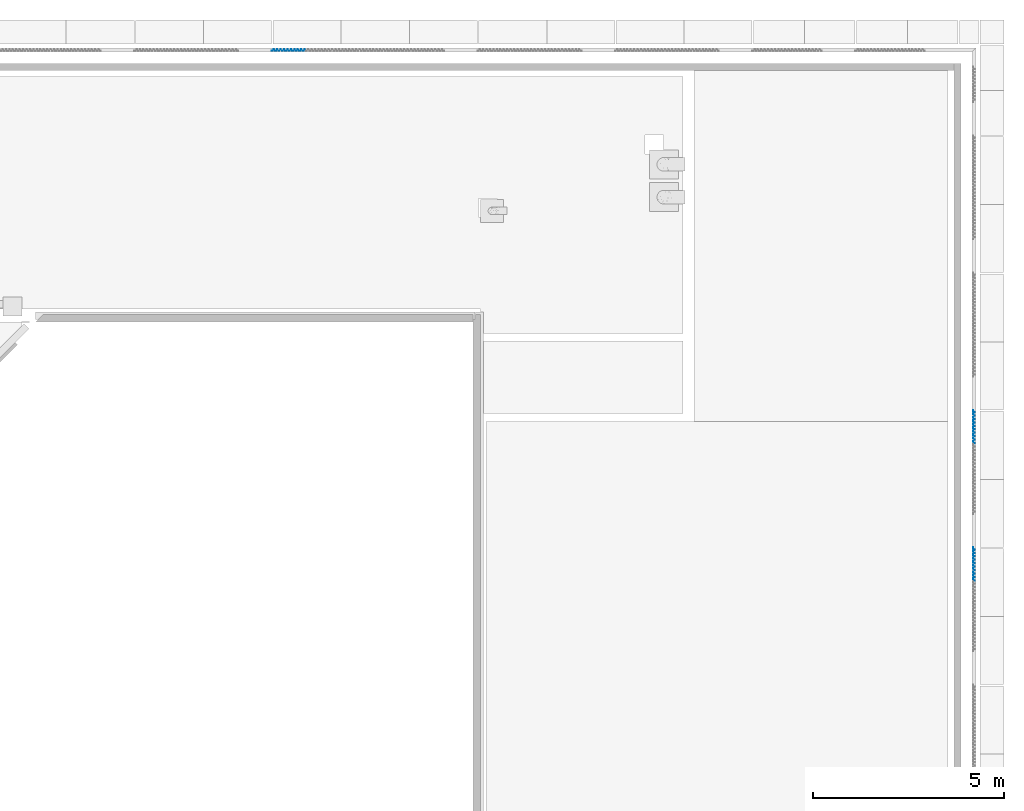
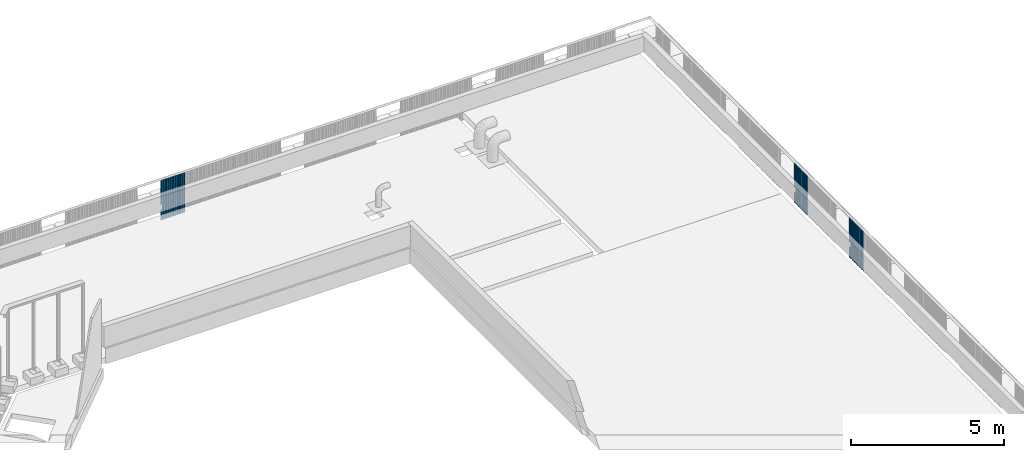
# One storey, part 31 of 37: 3 walls.
"""IFC4X3_ADD2 building model written with IfcOpenShell, lengths in millimetres."""

from ifc_helpers import new_model, si_unit, direction, frame, origin_with_axes, place, context, subcontext, project, spatial, polygons, element, save


model = new_model("IFC4X3_ADD2")

# Units and contexts
model_context = context("Model", 3, precision=1e-05, world=origin_with_axes(), true_north=direction((0.0, 1.0)))
body_context = subcontext(model_context, "Body", "Model", "MODEL_VIEW")
ifc_project = project(units=[si_unit("LENGTHUNIT", "METRE", prefix="MILLI"), si_unit("AREAUNIT", "SQUARE_METRE"), si_unit("VOLUMEUNIT", "CUBIC_METRE"), si_unit("PLANEANGLEUNIT", "RADIAN"), si_unit("TIMEUNIT", "SECOND"), si_unit("MASSUNIT", "GRAM")], contexts=[model_context])

# Site, building, storey
site_placement = place(None, origin_with_axes())
site = spatial("IfcSite", under=ifc_project, at=site_placement, Name="Site", CompositionType="ELEMENT")
building_placement = place(site_placement, origin_with_axes())
building = spatial("IfcBuilding", under=site, at=building_placement, Name="IFC Building Story")
storey_placement = place(building_placement, frame((0.0, 0.0, 14400.0), z_axis=(0.0, 0.0, 1.0), x_axis=(1.0, 0.0, 0.0)))
storey = spatial("IfcBuildingStorey", under=building, at=storey_placement, Name="040", Elevation=14400.0)

# Walls
wall_1_placement = place(storey_placement, frame((0.0, 0.0, -14400.0), z_axis=(0.0, 0.0, 1.0), x_axis=(1.0, 0.0, 0.0)))
element("IfcWall", 1, at=wall_1_placement, inside=storey, Name="BB_07.10_Gevelbekleding_PuntProfiel, 900 mm, console rechts_GMO:900 x 1600 mm", ObjectType="BB_07.10_Gevelbekleding_PuntProfiel, 900 mm, console rechts_GMO:900 x 1600 mm", PredefinedType="NOTDEFINED", context=body_context, shape_type="Tessellation", body=[
    polygons([(435.0000000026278, 32620.00000000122, 14060.0), (433.5857864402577, 32620.00000000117, 14060.0), (448.5857864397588, 32635.0000000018, 14060.0), (415.0000000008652, 32668.58578643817, 14060.0), (415.0000000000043, 32691.41421356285, 14060.0), (416.000000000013, 32691.00000000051, 14060.0), (416.0000000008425, 32669.00000000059, 14060.0), (450.0000000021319, 32635.00000000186, 14060.0), (435.0000000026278, 32620.00000000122, 13860.0), (433.5857864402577, 32620.00000000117, 13860.0), (450.0000000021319, 32635.00000000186, 13860.0), (416.0000000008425, 32669.00000000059, 13860.0), (416.0000000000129, 32691.00000000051, 13860.0), (415.0000000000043, 32691.41421356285, 13860.0), (415.0000000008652, 32668.58578643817, 13860.0), (448.5857864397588, 32635.0000000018, 13860.0), (416.0000000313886, 31859.00000000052, 15040.0), (416.000000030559, 31881.00000000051, 15040.0), (450.000000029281, 31915.00000000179, 15040.0), (416.0000000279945, 31949.00000000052, 15040.0), (416.0000000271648, 31971.00000000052, 15040.0), (450.0000000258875, 32005.0000000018, 15040.0), (416.0000000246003, 32039.00000000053, 15040.0), (416.0000000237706, 32061.00000000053, 15040.0), (450.0000000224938, 32095.00000000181, 15040.0), (416.0000000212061, 32129.00000000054, 15040.0), (416.0000000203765, 32151.00000000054, 15040.0), (450.0000000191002, 32185.00000000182, 15040.0), (416.0000000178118, 32219.00000000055, 15040.0), (416.0000000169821, 32241.00000000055, 15040.0), (450.0000000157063, 32275.00000000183, 15040.0), (416.0000000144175, 32309.00000000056, 15040.0), (416.0000000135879, 32331.00000000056, 15040.0), (450.0000000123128, 32365.00000000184, 15040.0), (416.0000000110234, 32399.00000000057, 15040.0), (416.0000000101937, 32421.00000000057, 15040.0), (450.0000000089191, 32455.00000000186, 15040.0), (416.0000000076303, 32489.00000000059, 15040.0), (416.0000000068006, 32511.00000000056, 15040.0), (450.0000000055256, 32545.00000000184, 15040.0), (416.0000000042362, 32579.00000000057, 15040.0), (416.0000000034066, 32601.00000000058, 15040.0), (450.000000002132, 32635.00000000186, 15040.0), (416.0000000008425, 32669.00000000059, 15040.0), (416.000000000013, 32691.00000000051, 15040.0), (415.0000000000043, 32691.41421356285, 15040.0), (415.0000000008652, 32668.58578643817, 15040.0), (448.5857864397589, 32635.0000000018, 15040.0), (415.0000000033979, 32601.41421356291, 15040.0), (415.0000000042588, 32578.58578643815, 15040.0), (448.5857864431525, 32545.00000000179, 15040.0), (415.0000000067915, 32511.41421356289, 15040.0), (415.0000000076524, 32488.58578643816, 15040.0), (448.5857864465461, 32455.0000000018, 15040.0), (415.0000000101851, 32421.41421356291, 15040.0), (415.000000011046, 32398.58578643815, 15040.0), (448.5857864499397, 32365.00000000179, 15040.0), (415.0000000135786, 32331.41421356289, 15040.0), (415.0000000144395, 32308.58578643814, 15040.0), (448.5857864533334, 32275.00000000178, 15040.0), (415.0000000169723, 32241.41421356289, 15040.0), (415.0000000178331, 32218.58578643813, 15040.0), (448.5857864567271, 32185.00000000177, 15040.0), (415.000000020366, 32151.41421356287, 15040.0), (415.0000000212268, 32128.58578643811, 15040.0), (448.5857864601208, 32095.00000000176, 15040.0), (415.0000000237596, 32061.41421356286, 15040.0), (415.0000000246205, 32038.58578643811, 15040.0), (448.5857864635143, 32005.00000000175, 15040.0), (415.0000000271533, 31971.41421356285, 15040.0), (415.000000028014, 31948.5857864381, 15040.0), (448.585786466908, 31915.00000000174, 15040.0), (415.0000000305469, 31881.41421356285, 15040.0), (415.0000000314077, 31858.5857864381, 15040.0), (448.5857864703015, 31825.00000000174, 15040.0), (415.0000000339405, 31791.41421356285, 15040.0), (415.0000000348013, 31768.5857864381, 15040.0), (416.0000000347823, 31769.00000000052, 15040.0), (416.0000000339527, 31791.00000000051, 15040.0), (450.0000000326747, 31825.00000000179, 15040.0), (416.0000000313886, 31859.00000000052, 13440.0), (450.0000000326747, 31825.00000000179, 13440.0), (416.0000000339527, 31791.00000000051, 13440.0), (416.0000000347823, 31769.00000000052, 13440.0), (415.0000000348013, 31768.5857864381, 13440.0), (415.0000000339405, 31791.41421356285, 13440.0), (448.5857864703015, 31825.00000000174, 13440.0), (415.0000000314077, 31858.5857864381, 13440.0), (415.0000000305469, 31881.41421356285, 13440.0), (448.585786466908, 31915.00000000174, 13440.0), (415.000000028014, 31948.5857864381, 13440.0), (415.0000000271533, 31971.41421356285, 13440.0), (448.5857864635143, 32005.00000000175, 13440.0), (415.0000000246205, 32038.58578643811, 13440.0), (415.0000000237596, 32061.41421356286, 13440.0), (448.5857864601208, 32095.00000000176, 13440.0), (415.0000000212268, 32128.58578643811, 13440.0), (415.000000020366, 32151.41421356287, 13440.0), (448.5857864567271, 32185.00000000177, 13440.0), (415.0000000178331, 32218.58578643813, 13440.0), (415.0000000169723, 32241.41421356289, 13440.0), (448.5857864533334, 32275.00000000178, 13440.0), (415.0000000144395, 32308.58578643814, 13440.0), (415.0000000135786, 32331.41421356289, 13440.0), (448.5857864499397, 32365.00000000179, 13440.0), (415.000000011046, 32398.58578643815, 13440.0), (415.0000000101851, 32421.41421356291, 13440.0), (448.5857864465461, 32455.0000000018, 13440.0), (415.0000000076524, 32488.58578643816, 13440.0), (415.0000000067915, 32511.41421356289, 13440.0), (448.5857864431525, 32545.00000000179, 13440.0), (415.0000000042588, 32578.58578643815, 13440.0), (415.0000000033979, 32601.41421356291, 13440.0), (448.5857864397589, 32635.0000000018, 13440.0), (415.0000000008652, 32668.58578643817, 13440.0), (415.0000000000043, 32691.41421356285, 13440.0), (416.000000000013, 32691.00000000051, 13440.0), (416.0000000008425, 32669.00000000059, 13440.0), (450.000000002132, 32635.00000000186, 13440.0), (416.0000000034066, 32601.00000000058, 13440.0), (416.0000000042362, 32579.00000000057, 13440.0), (450.0000000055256, 32545.00000000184, 13440.0), (416.0000000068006, 32511.00000000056, 13440.0), (416.0000000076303, 32489.00000000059, 13440.0), (450.0000000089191, 32455.00000000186, 13440.0), (416.0000000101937, 32421.00000000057, 13440.0), (416.0000000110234, 32399.00000000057, 13440.0), (450.0000000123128, 32365.00000000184, 13440.0), (416.0000000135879, 32331.00000000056, 13440.0), (416.0000000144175, 32309.00000000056, 13440.0), (450.0000000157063, 32275.00000000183, 13440.0), (416.0000000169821, 32241.00000000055, 13440.0), (416.0000000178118, 32219.00000000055, 13440.0), (450.0000000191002, 32185.00000000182, 13440.0), (416.0000000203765, 32151.00000000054, 13440.0), (416.0000000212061, 32129.00000000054, 13440.0), (450.0000000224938, 32095.00000000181, 13440.0), (416.0000000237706, 32061.00000000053, 13440.0), (416.0000000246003, 32039.00000000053, 13440.0), (450.0000000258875, 32005.0000000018, 13440.0), (416.0000000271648, 31971.00000000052, 13440.0), (416.0000000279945, 31949.00000000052, 13440.0), (450.000000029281, 31915.00000000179, 13440.0), (416.000000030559, 31881.00000000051, 13440.0)], [[[7, 8, 3]], [[7, 3, 4]], [[4, 5, 6]], [[4, 6, 7]], [[8, 1, 2]], [[8, 2, 3]], [[2, 1, 9, 10]], [[12, 13, 14]], [[12, 14, 15]], [[16, 10, 9]], [[16, 9, 11]], [[11, 12, 15]], [[11, 15, 16]], [[44, 45, 46]], [[44, 46, 47]], [[48, 49, 42]], [[48, 42, 43]], [[43, 44, 47]], [[43, 47, 48]], [[49, 50, 41]], [[49, 41, 42]], [[51, 52, 39]], [[51, 39, 40]], [[40, 41, 50]], [[40, 50, 51]], [[52, 53, 38]], [[52, 38, 39]], [[54, 55, 36]], [[54, 36, 37]], [[37, 38, 53]], [[37, 53, 54]], [[55, 56, 35]], [[55, 35, 36]], [[57, 58, 33]], [[57, 33, 34]], [[34, 35, 56]], [[34, 56, 57]], [[58, 59, 32]], [[58, 32, 33]], [[60, 61, 30]], [[60, 30, 31]], [[31, 32, 59]], [[31, 59, 60]], [[61, 62, 29]], [[61, 29, 30]], [[63, 64, 27]], [[63, 27, 28]], [[28, 29, 62]], [[28, 62, 63]], [[64, 65, 26]], [[64, 26, 27]], [[66, 67, 24]], [[66, 24, 25]], [[25, 26, 65]], [[25, 65, 66]], [[67, 68, 23]], [[67, 23, 24]], [[69, 70, 21]], [[69, 21, 22]], [[22, 23, 68]], [[22, 68, 69]], [[70, 71, 20]], [[70, 20, 21]], [[72, 73, 18]], [[72, 18, 19]], [[19, 20, 71]], [[19, 71, 72]], [[73, 74, 17]], [[73, 17, 18]], [[79, 80, 75]], [[79, 75, 76]], [[76, 77, 78]], [[76, 78, 79]], [[80, 17, 74]], [[80, 74, 75]], [[83, 84, 85]], [[83, 85, 86]], [[87, 88, 81]], [[87, 81, 82]], [[82, 83, 86]], [[82, 86, 87]], [[118, 119, 114]], [[118, 114, 115]], [[115, 116, 117]], [[115, 117, 118]], [[121, 122, 111]], [[121, 111, 112]], [[112, 113, 120]], [[112, 120, 121]], [[113, 114, 119]], [[113, 119, 120]], [[124, 125, 108]], [[124, 108, 109]], [[109, 110, 123]], [[109, 123, 124]], [[110, 111, 122]], [[110, 122, 123]], [[127, 128, 105]], [[127, 105, 106]], [[106, 107, 126]], [[106, 126, 127]], [[107, 108, 125]], [[107, 125, 126]], [[130, 131, 102]], [[130, 102, 103]], [[103, 104, 129]], [[103, 129, 130]], [[104, 105, 128]], [[104, 128, 129]], [[133, 134, 99]], [[133, 99, 100]], [[100, 101, 132]], [[100, 132, 133]], [[101, 102, 131]], [[101, 131, 132]], [[136, 137, 96]], [[136, 96, 97]], [[97, 98, 135]], [[97, 135, 136]], [[98, 99, 134]], [[98, 134, 135]], [[139, 140, 93]], [[139, 93, 94]], [[94, 95, 138]], [[94, 138, 139]], [[95, 96, 137]], [[95, 137, 138]], [[142, 143, 90]], [[142, 90, 91]], [[91, 92, 141]], [[91, 141, 142]], [[92, 93, 140]], [[92, 140, 141]], [[144, 81, 88]], [[144, 88, 89]], [[89, 90, 143]], [[89, 143, 144]], [[18, 17, 81, 144]], [[19, 18, 144, 143]], [[20, 19, 143, 142]], [[21, 20, 142, 141]], [[22, 21, 141, 140]], [[23, 22, 140, 139]], [[24, 23, 139, 138]], [[25, 24, 138, 137]], [[26, 25, 137, 136]], [[27, 26, 136, 135]], [[28, 27, 135, 134]], [[29, 28, 134, 133]], [[30, 29, 133, 132]], [[31, 30, 132, 131]], [[32, 31, 131, 130]], [[33, 32, 130, 129]], [[34, 33, 129, 128]], [[35, 34, 128, 127]], [[36, 35, 127, 126]], [[37, 36, 126, 125]], [[38, 37, 125, 124]], [[54, 53, 109, 108]], [[55, 54, 108, 107]], [[56, 55, 107, 106]], [[57, 56, 106, 105]], [[58, 57, 105, 104]], [[59, 58, 104, 103]], [[60, 59, 103, 102]], [[61, 60, 102, 101]], [[62, 61, 101, 100]], [[63, 62, 100, 99]], [[64, 63, 99, 98]], [[65, 64, 98, 97]], [[66, 65, 97, 96]], [[67, 66, 96, 95]], [[68, 67, 95, 94]], [[69, 68, 94, 93]], [[70, 69, 93, 92]], [[71, 70, 92, 91]], [[72, 71, 91, 90]], [[73, 72, 90, 89]], [[74, 73, 89, 88]], [[80, 79, 83, 82]], [[17, 80, 82, 81]], [[39, 38, 124, 123]], [[40, 39, 123, 122]], [[41, 40, 122, 121]], [[42, 41, 121, 120]], [[1, 8, 43]], [[1, 43, 42]], [[42, 9, 1]], [[42, 120, 9]], [[120, 119, 11]], [[120, 11, 9]], [[44, 43, 8, 7]], [[45, 44, 7, 6]], [[47, 46, 5, 4]], [[48, 47, 4, 3]], [[10, 16, 114]], [[10, 114, 113]], [[113, 2, 10]], [[2, 113, 49]], [[49, 48, 2]], [[48, 3, 2]], [[50, 49, 113, 112]], [[51, 50, 112, 111]], [[52, 51, 111, 110]], [[53, 52, 110, 109]], [[75, 74, 88, 87]], [[76, 75, 87, 86]], [[46, 45, 6, 5]], [[77, 76, 86, 85]], [[78, 77, 85, 84]], [[79, 78, 84, 83]], [[117, 116, 14, 13]], [[115, 114, 16, 15]], [[116, 115, 15, 14]], [[118, 117, 13, 12]], [[119, 118, 12, 11]]]),
])
wall_2_placement = place(storey_placement, frame((0.0, 0.0, -14400.0), z_axis=(0.0, 0.0, 1.0), x_axis=(1.0, 0.0, 0.0)))
element("IfcWall", 2, at=wall_2_placement, inside=storey, Name="BB_07.10_Gevelbekleding_PuntProfiel, 900 mm, console rechts_GMO:900 x 1600 mm", ObjectType="BB_07.10_Gevelbekleding_PuntProfiel, 900 mm, console rechts_GMO:900 x 1600 mm", PredefinedType="NOTDEFINED", context=body_context, shape_type="Tessellation", body=[
    polygons([(435.0000000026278, 36220.00000000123, 14060.0), (433.5857864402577, 36220.00000000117, 14060.0), (448.5857864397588, 36235.0000000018, 14060.0), (415.0000000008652, 36268.58578643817, 14060.0), (415.0000000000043, 36291.41421356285, 14060.0), (416.000000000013, 36291.00000000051, 14060.0), (416.0000000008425, 36269.00000000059, 14060.0), (450.0000000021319, 36235.00000000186, 14060.0), (435.0000000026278, 36220.00000000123, 13860.0), (433.5857864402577, 36220.00000000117, 13860.0), (450.0000000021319, 36235.00000000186, 13860.0), (416.0000000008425, 36269.00000000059, 13860.0), (416.0000000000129, 36291.00000000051, 13860.0), (415.0000000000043, 36291.41421356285, 13860.0), (415.0000000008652, 36268.58578643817, 13860.0), (448.5857864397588, 36235.0000000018, 13860.0), (416.0000000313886, 35459.00000000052, 15040.0), (416.000000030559, 35481.00000000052, 15040.0), (450.000000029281, 35515.0000000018, 15040.0), (416.0000000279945, 35549.00000000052, 15040.0), (416.0000000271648, 35571.00000000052, 15040.0), (450.0000000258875, 35605.0000000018, 15040.0), (416.0000000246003, 35639.00000000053, 15040.0), (416.0000000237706, 35661.00000000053, 15040.0), (450.0000000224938, 35695.00000000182, 15040.0), (416.0000000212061, 35729.00000000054, 15040.0), (416.0000000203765, 35751.00000000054, 15040.0), (450.0000000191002, 35785.00000000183, 15040.0), (416.0000000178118, 35819.00000000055, 15040.0), (416.0000000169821, 35841.00000000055, 15040.0), (450.0000000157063, 35875.00000000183, 15040.0), (416.0000000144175, 35909.00000000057, 15040.0), (416.0000000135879, 35931.00000000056, 15040.0), (450.0000000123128, 35965.00000000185, 15040.0), (416.0000000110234, 35999.00000000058, 15040.0), (416.0000000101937, 36021.00000000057, 15040.0), (450.0000000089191, 36055.00000000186, 15040.0), (416.0000000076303, 36089.00000000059, 15040.0), (416.0000000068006, 36111.00000000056, 15040.0), (450.0000000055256, 36145.00000000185, 15040.0), (416.0000000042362, 36179.00000000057, 15040.0), (416.0000000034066, 36201.00000000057, 15040.0), (450.000000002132, 36235.00000000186, 15040.0), (416.0000000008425, 36269.00000000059, 15040.0), (416.000000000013, 36291.00000000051, 15040.0), (415.0000000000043, 36291.41421356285, 15040.0), (415.0000000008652, 36268.58578643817, 15040.0), (448.5857864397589, 36235.0000000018, 15040.0), (415.0000000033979, 36201.41421356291, 15040.0), (415.0000000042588, 36178.58578643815, 15040.0), (448.5857864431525, 36145.00000000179, 15040.0), (415.0000000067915, 36111.4142135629, 15040.0), (415.0000000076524, 36088.58578643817, 15040.0), (448.5857864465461, 36055.0000000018, 15040.0), (415.0000000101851, 36021.41421356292, 15040.0), (415.000000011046, 35998.58578643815, 15040.0), (448.5857864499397, 35965.00000000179, 15040.0), (415.0000000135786, 35931.4142135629, 15040.0), (415.0000000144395, 35908.58578643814, 15040.0), (448.5857864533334, 35875.00000000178, 15040.0), (415.0000000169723, 35841.41421356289, 15040.0), (415.0000000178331, 35818.58578643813, 15040.0), (448.5857864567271, 35785.00000000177, 15040.0), (415.000000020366, 35751.41421356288, 15040.0), (415.0000000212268, 35728.58578643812, 15040.0), (448.5857864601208, 35695.00000000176, 15040.0), (415.0000000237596, 35661.41421356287, 15040.0), (415.0000000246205, 35638.58578643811, 15040.0), (448.5857864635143, 35605.00000000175, 15040.0), (415.0000000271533, 35571.41421356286, 15040.0), (415.000000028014, 35548.5857864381, 15040.0), (448.585786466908, 35515.00000000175, 15040.0), (415.0000000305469, 35481.41421356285, 15040.0), (415.0000000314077, 35458.5857864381, 15040.0), (448.5857864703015, 35425.00000000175, 15040.0), (415.0000000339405, 35391.41421356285, 15040.0), (415.0000000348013, 35368.5857864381, 15040.0), (416.0000000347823, 35369.00000000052, 15040.0), (416.0000000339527, 35391.00000000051, 15040.0), (450.0000000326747, 35425.0000000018, 15040.0), (416.0000000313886, 35459.00000000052, 13440.0), (450.0000000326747, 35425.0000000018, 13440.0), (416.0000000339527, 35391.00000000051, 13440.0), (416.0000000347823, 35369.00000000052, 13440.0), (415.0000000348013, 35368.5857864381, 13440.0), (415.0000000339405, 35391.41421356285, 13440.0), (448.5857864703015, 35425.00000000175, 13440.0), (415.0000000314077, 35458.5857864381, 13440.0), (415.0000000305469, 35481.41421356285, 13440.0), (448.585786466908, 35515.00000000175, 13440.0), (415.000000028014, 35548.5857864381, 13440.0), (415.0000000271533, 35571.41421356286, 13440.0), (448.5857864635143, 35605.00000000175, 13440.0), (415.0000000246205, 35638.58578643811, 13440.0), (415.0000000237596, 35661.41421356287, 13440.0), (448.5857864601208, 35695.00000000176, 13440.0), (415.0000000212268, 35728.58578643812, 13440.0), (415.000000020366, 35751.41421356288, 13440.0), (448.5857864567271, 35785.00000000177, 13440.0), (415.0000000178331, 35818.58578643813, 13440.0), (415.0000000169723, 35841.41421356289, 13440.0), (448.5857864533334, 35875.00000000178, 13440.0), (415.0000000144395, 35908.58578643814, 13440.0), (415.0000000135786, 35931.4142135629, 13440.0), (448.5857864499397, 35965.00000000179, 13440.0), (415.000000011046, 35998.58578643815, 13440.0), (415.0000000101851, 36021.41421356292, 13440.0), (448.5857864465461, 36055.0000000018, 13440.0), (415.0000000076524, 36088.58578643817, 13440.0), (415.0000000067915, 36111.4142135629, 13440.0), (448.5857864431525, 36145.00000000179, 13440.0), (415.0000000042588, 36178.58578643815, 13440.0), (415.0000000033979, 36201.41421356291, 13440.0), (448.5857864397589, 36235.0000000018, 13440.0), (415.0000000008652, 36268.58578643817, 13440.0), (415.0000000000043, 36291.41421356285, 13440.0), (416.000000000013, 36291.00000000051, 13440.0), (416.0000000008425, 36269.00000000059, 13440.0), (450.000000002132, 36235.00000000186, 13440.0), (416.0000000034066, 36201.00000000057, 13440.0), (416.0000000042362, 36179.00000000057, 13440.0), (450.0000000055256, 36145.00000000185, 13440.0), (416.0000000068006, 36111.00000000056, 13440.0), (416.0000000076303, 36089.00000000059, 13440.0), (450.0000000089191, 36055.00000000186, 13440.0), (416.0000000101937, 36021.00000000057, 13440.0), (416.0000000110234, 35999.00000000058, 13440.0), (450.0000000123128, 35965.00000000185, 13440.0), (416.0000000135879, 35931.00000000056, 13440.0), (416.0000000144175, 35909.00000000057, 13440.0), (450.0000000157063, 35875.00000000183, 13440.0), (416.0000000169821, 35841.00000000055, 13440.0), (416.0000000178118, 35819.00000000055, 13440.0), (450.0000000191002, 35785.00000000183, 13440.0), (416.0000000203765, 35751.00000000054, 13440.0), (416.0000000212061, 35729.00000000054, 13440.0), (450.0000000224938, 35695.00000000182, 13440.0), (416.0000000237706, 35661.00000000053, 13440.0), (416.0000000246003, 35639.00000000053, 13440.0), (450.0000000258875, 35605.0000000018, 13440.0), (416.0000000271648, 35571.00000000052, 13440.0), (416.0000000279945, 35549.00000000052, 13440.0), (450.000000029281, 35515.0000000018, 13440.0), (416.000000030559, 35481.00000000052, 13440.0)], [[[7, 8, 3]], [[7, 3, 4]], [[4, 5, 6]], [[4, 6, 7]], [[8, 1, 2]], [[8, 2, 3]], [[2, 1, 9, 10]], [[12, 13, 14]], [[12, 14, 15]], [[16, 10, 9]], [[16, 9, 11]], [[11, 12, 15]], [[11, 15, 16]], [[44, 45, 46]], [[44, 46, 47]], [[48, 49, 42]], [[48, 42, 43]], [[43, 44, 47]], [[43, 47, 48]], [[49, 50, 41]], [[49, 41, 42]], [[51, 52, 39]], [[51, 39, 40]], [[40, 41, 50]], [[40, 50, 51]], [[52, 53, 38]], [[52, 38, 39]], [[54, 55, 36]], [[54, 36, 37]], [[37, 38, 53]], [[37, 53, 54]], [[55, 56, 35]], [[55, 35, 36]], [[57, 58, 33]], [[57, 33, 34]], [[34, 35, 56]], [[34, 56, 57]], [[58, 59, 32]], [[58, 32, 33]], [[60, 61, 30]], [[60, 30, 31]], [[31, 32, 59]], [[31, 59, 60]], [[61, 62, 29]], [[61, 29, 30]], [[63, 64, 27]], [[63, 27, 28]], [[28, 29, 62]], [[28, 62, 63]], [[64, 65, 26]], [[64, 26, 27]], [[66, 67, 24]], [[66, 24, 25]], [[25, 26, 65]], [[25, 65, 66]], [[67, 68, 23]], [[67, 23, 24]], [[69, 70, 21]], [[69, 21, 22]], [[22, 23, 68]], [[22, 68, 69]], [[70, 71, 20]], [[70, 20, 21]], [[72, 73, 18]], [[72, 18, 19]], [[19, 20, 71]], [[19, 71, 72]], [[73, 74, 17]], [[73, 17, 18]], [[79, 80, 75]], [[79, 75, 76]], [[76, 77, 78]], [[76, 78, 79]], [[80, 17, 74]], [[80, 74, 75]], [[83, 84, 85]], [[83, 85, 86]], [[87, 88, 81]], [[87, 81, 82]], [[82, 83, 86]], [[82, 86, 87]], [[118, 119, 114]], [[118, 114, 115]], [[115, 116, 117]], [[115, 117, 118]], [[121, 122, 111]], [[121, 111, 112]], [[112, 113, 120]], [[112, 120, 121]], [[113, 114, 119]], [[113, 119, 120]], [[124, 125, 108]], [[124, 108, 109]], [[109, 110, 123]], [[109, 123, 124]], [[110, 111, 122]], [[110, 122, 123]], [[127, 128, 105]], [[127, 105, 106]], [[106, 107, 126]], [[106, 126, 127]], [[107, 108, 125]], [[107, 125, 126]], [[130, 131, 102]], [[130, 102, 103]], [[103, 104, 129]], [[103, 129, 130]], [[104, 105, 128]], [[104, 128, 129]], [[133, 134, 99]], [[133, 99, 100]], [[100, 101, 132]], [[100, 132, 133]], [[101, 102, 131]], [[101, 131, 132]], [[136, 137, 96]], [[136, 96, 97]], [[97, 98, 135]], [[97, 135, 136]], [[98, 99, 134]], [[98, 134, 135]], [[139, 140, 93]], [[139, 93, 94]], [[94, 95, 138]], [[94, 138, 139]], [[95, 96, 137]], [[95, 137, 138]], [[142, 143, 90]], [[142, 90, 91]], [[91, 92, 141]], [[91, 141, 142]], [[92, 93, 140]], [[92, 140, 141]], [[144, 81, 88]], [[144, 88, 89]], [[89, 90, 143]], [[89, 143, 144]], [[18, 17, 81, 144]], [[19, 18, 144, 143]], [[20, 19, 143, 142]], [[21, 20, 142, 141]], [[22, 21, 141, 140]], [[23, 22, 140, 139]], [[24, 23, 139, 138]], [[25, 24, 138, 137]], [[26, 25, 137, 136]], [[27, 26, 136, 135]], [[28, 27, 135, 134]], [[29, 28, 134, 133]], [[30, 29, 133, 132]], [[31, 30, 132, 131]], [[32, 31, 131, 130]], [[33, 32, 130, 129]], [[34, 33, 129, 128]], [[35, 34, 128, 127]], [[36, 35, 127, 126]], [[37, 36, 126, 125]], [[38, 37, 125, 124]], [[54, 53, 109, 108]], [[55, 54, 108, 107]], [[56, 55, 107, 106]], [[57, 56, 106, 105]], [[58, 57, 105, 104]], [[59, 58, 104, 103]], [[60, 59, 103, 102]], [[61, 60, 102, 101]], [[62, 61, 101, 100]], [[63, 62, 100, 99]], [[64, 63, 99, 98]], [[65, 64, 98, 97]], [[66, 65, 97, 96]], [[67, 66, 96, 95]], [[68, 67, 95, 94]], [[69, 68, 94, 93]], [[70, 69, 93, 92]], [[71, 70, 92, 91]], [[72, 71, 91, 90]], [[73, 72, 90, 89]], [[74, 73, 89, 88]], [[80, 79, 83, 82]], [[17, 80, 82, 81]], [[39, 38, 124, 123]], [[40, 39, 123, 122]], [[41, 40, 122, 121]], [[42, 41, 121, 120]], [[1, 8, 43]], [[1, 43, 42]], [[42, 9, 1]], [[42, 120, 9]], [[120, 119, 11]], [[120, 11, 9]], [[44, 43, 8, 7]], [[45, 44, 7, 6]], [[47, 46, 5, 4]], [[48, 47, 4, 3]], [[10, 16, 114]], [[10, 114, 113]], [[113, 2, 10]], [[2, 113, 49]], [[49, 48, 2]], [[48, 3, 2]], [[50, 49, 113, 112]], [[51, 50, 112, 111]], [[52, 51, 111, 110]], [[53, 52, 110, 109]], [[75, 74, 88, 87]], [[76, 75, 87, 86]], [[46, 45, 6, 5]], [[77, 76, 86, 85]], [[78, 77, 85, 84]], [[79, 78, 84, 83]], [[117, 116, 14, 13]], [[115, 114, 16, 15]], [[116, 115, 15, 14]], [[118, 117, 13, 12]], [[119, 118, 12, 11]]]),
])
wall_3_placement = place(storey_placement, frame((0.0, 0.0, -14400.0), z_axis=(0.0, 0.0, 1.0), x_axis=(1.0, 0.0, 0.0)))
element("IfcWall", 3, at=wall_3_placement, inside=storey, Name="BB_07.10_Gevelbekleding_PuntProfiel, 900 mm, console rechts_GMO:900 x 1600 mm", ObjectType="BB_07.10_Gevelbekleding_PuntProfiel, 900 mm, console rechts_GMO:900 x 1600 mm", PredefinedType="NOTDEFINED", context=body_context, shape_type="Tessellation", body=[
    polygons([(-17904.99999999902, 45734.99999999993, 14060.0), (-17904.99999999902, 45733.58578643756, 14060.0), (-17919.99999999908, 45748.58578643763, 14060.0), (-17953.58578643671, 45715.0, 14060.0), (-17976.4142135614, 45715.0, 14060.0), (-17975.99999999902, 45716.0, 14060.0), (-17953.9999999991, 45716.0, 14060.0), (-17919.99999999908, 45750.0, 14060.0), (-17904.99999999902, 45734.99999999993, 13860.0), (-17904.99999999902, 45733.58578643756, 13860.0), (-17919.99999999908, 45750.0, 13860.0), (-17953.9999999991, 45716.0, 13860.0), (-17975.99999999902, 45716.0, 13860.0), (-17976.4142135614, 45715.0, 13860.0), (-17953.58578643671, 45715.0, 13860.0), (-17919.99999999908, 45748.58578643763, 13860.0), (-17143.99999999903, 45716.0, 15040.0), (-17165.99999999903, 45716.0, 15040.0), (-17199.99999999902, 45750.0, 15040.0), (-17233.99999999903, 45716.0, 15040.0), (-17255.99999999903, 45716.0, 15040.0), (-17289.99999999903, 45750.0, 15040.0), (-17323.99999999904, 45716.0, 15040.0), (-17345.99999999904, 45716.0, 15040.0), (-17379.99999999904, 45750.00000000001, 15040.0), (-17413.99999999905, 45716.0, 15040.0), (-17435.99999999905, 45716.0, 15040.0), (-17469.99999999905, 45750.00000000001, 15040.0), (-17503.99999999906, 45716.0, 15040.0), (-17525.99999999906, 45716.0, 15040.0), (-17559.99999999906, 45750.00000000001, 15040.0), (-17593.99999999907, 45716.0, 15040.0), (-17615.99999999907, 45716.0, 15040.0), (-17649.99999999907, 45750.00000000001, 15040.0), (-17683.99999999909, 45716.0, 15040.0), (-17705.99999999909, 45716.0, 15040.0), (-17739.99999999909, 45750.00000000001, 15040.0), (-17773.9999999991, 45716.0, 15040.0), (-17795.99999999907, 45716.0, 15040.0), (-17829.99999999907, 45750.00000000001, 15040.0), (-17863.99999999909, 45716.0, 15040.0), (-17885.99999999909, 45716.0, 15040.0), (-17919.99999999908, 45750.00000000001, 15040.0), (-17953.9999999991, 45716.0, 15040.0), (-17975.99999999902, 45716.0, 15040.0), (-17976.4142135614, 45715.0, 15040.0), (-17953.58578643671, 45715.0, 15040.0), (-17919.99999999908, 45748.58578643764, 15040.0), (-17886.41421356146, 45715.0, 15040.0), (-17863.5857864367, 45715.0, 15040.0), (-17829.99999999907, 45748.58578643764, 15040.0), (-17796.41421356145, 45715.0, 15040.0), (-17773.58578643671, 45715.0, 15040.0), (-17739.99999999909, 45748.58578643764, 15040.0), (-17706.41421356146, 45715.0, 15040.0), (-17683.5857864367, 45715.0, 15040.0), (-17649.99999999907, 45748.58578643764, 15040.0), (-17616.41421356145, 45715.0, 15040.0), (-17593.58578643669, 45715.0, 15040.0), (-17559.99999999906, 45748.58578643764, 15040.0), (-17526.41421356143, 45715.0, 15040.0), (-17503.58578643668, 45715.0, 15040.0), (-17469.99999999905, 45748.58578643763, 15040.0), (-17436.41421356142, 45715.0, 15040.0), (-17413.58578643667, 45715.0, 15040.0), (-17379.99999999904, 45748.58578643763, 15040.0), (-17346.41421356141, 45715.0, 15040.0), (-17323.58578643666, 45715.0, 15040.0), (-17289.99999999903, 45748.58578643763, 15040.0), (-17256.41421356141, 45715.0, 15040.0), (-17233.58578643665, 45715.0, 15040.0), (-17199.99999999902, 45748.58578643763, 15040.0), (-17166.4142135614, 45715.0, 15040.0), (-17143.58578643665, 45715.0, 15040.0), (-17109.99999999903, 45748.58578643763, 15040.0), (-17076.4142135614, 45715.0, 15040.0), (-17053.58578643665, 45715.0, 15040.0), (-17053.99999999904, 45716.0, 15040.0), (-17075.99999999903, 45716.0, 15040.0), (-17109.99999999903, 45750.0, 15040.0), (-17143.99999999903, 45716.0, 13440.0), (-17109.99999999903, 45750.0, 13440.0), (-17075.99999999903, 45716.0, 13440.0), (-17053.99999999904, 45716.0, 13440.0), (-17053.58578643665, 45715.0, 13440.0), (-17076.4142135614, 45715.0, 13440.0), (-17109.99999999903, 45748.58578643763, 13440.0), (-17143.58578643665, 45715.0, 13440.0), (-17166.4142135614, 45715.0, 13440.0), (-17199.99999999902, 45748.58578643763, 13440.0), (-17233.58578643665, 45715.0, 13440.0), (-17256.41421356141, 45715.0, 13440.0), (-17289.99999999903, 45748.58578643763, 13440.0), (-17323.58578643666, 45715.0, 13440.0), (-17346.41421356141, 45715.0, 13440.0), (-17379.99999999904, 45748.58578643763, 13440.0), (-17413.58578643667, 45715.0, 13440.0), (-17436.41421356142, 45715.0, 13440.0), (-17469.99999999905, 45748.58578643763, 13440.0), (-17503.58578643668, 45715.0, 13440.0), (-17526.41421356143, 45715.0, 13440.0), (-17559.99999999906, 45748.58578643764, 13440.0), (-17593.58578643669, 45715.0, 13440.0), (-17616.41421356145, 45715.0, 13440.0), (-17649.99999999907, 45748.58578643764, 13440.0), (-17683.5857864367, 45715.0, 13440.0), (-17706.41421356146, 45715.0, 13440.0), (-17739.99999999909, 45748.58578643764, 13440.0), (-17773.58578643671, 45715.0, 13440.0), (-17796.41421356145, 45715.0, 13440.0), (-17829.99999999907, 45748.58578643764, 13440.0), (-17863.5857864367, 45715.0, 13440.0), (-17886.41421356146, 45715.0, 13440.0), (-17919.99999999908, 45748.58578643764, 13440.0), (-17953.58578643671, 45715.0, 13440.0), (-17976.4142135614, 45715.0, 13440.0), (-17975.99999999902, 45716.0, 13440.0), (-17953.9999999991, 45716.0, 13440.0), (-17919.99999999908, 45750.00000000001, 13440.0), (-17885.99999999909, 45716.0, 13440.0), (-17863.99999999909, 45716.0, 13440.0), (-17829.99999999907, 45750.00000000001, 13440.0), (-17795.99999999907, 45716.0, 13440.0), (-17773.9999999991, 45716.0, 13440.0), (-17739.99999999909, 45750.00000000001, 13440.0), (-17705.99999999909, 45716.0, 13440.0), (-17683.99999999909, 45716.0, 13440.0), (-17649.99999999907, 45750.00000000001, 13440.0), (-17615.99999999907, 45716.0, 13440.0), (-17593.99999999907, 45716.0, 13440.0), (-17559.99999999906, 45750.00000000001, 13440.0), (-17525.99999999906, 45716.0, 13440.0), (-17503.99999999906, 45716.0, 13440.0), (-17469.99999999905, 45750.00000000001, 13440.0), (-17435.99999999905, 45716.0, 13440.0), (-17413.99999999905, 45716.0, 13440.0), (-17379.99999999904, 45750.00000000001, 13440.0), (-17345.99999999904, 45716.0, 13440.0), (-17323.99999999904, 45716.0, 13440.0), (-17289.99999999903, 45750.0, 13440.0), (-17255.99999999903, 45716.0, 13440.0), (-17233.99999999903, 45716.0, 13440.0), (-17199.99999999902, 45750.0, 13440.0), (-17165.99999999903, 45716.0, 13440.0)], [[[7, 8, 3]], [[7, 3, 4]], [[4, 5, 6]], [[4, 6, 7]], [[8, 1, 2]], [[8, 2, 3]], [[2, 1, 9, 10]], [[12, 13, 14]], [[12, 14, 15]], [[16, 10, 9]], [[16, 9, 11]], [[11, 12, 15]], [[11, 15, 16]], [[44, 45, 46]], [[44, 46, 47]], [[48, 49, 42]], [[48, 42, 43]], [[43, 44, 47]], [[43, 47, 48]], [[49, 50, 41]], [[49, 41, 42]], [[51, 52, 39]], [[51, 39, 40]], [[40, 41, 50]], [[40, 50, 51]], [[52, 53, 38]], [[52, 38, 39]], [[54, 55, 36]], [[54, 36, 37]], [[37, 38, 53]], [[37, 53, 54]], [[55, 56, 35]], [[55, 35, 36]], [[57, 58, 33]], [[57, 33, 34]], [[34, 35, 56]], [[34, 56, 57]], [[58, 59, 32]], [[58, 32, 33]], [[60, 61, 30]], [[60, 30, 31]], [[31, 32, 59]], [[31, 59, 60]], [[61, 62, 29]], [[61, 29, 30]], [[63, 64, 27]], [[63, 27, 28]], [[28, 29, 62]], [[28, 62, 63]], [[64, 65, 26]], [[64, 26, 27]], [[66, 67, 24]], [[66, 24, 25]], [[25, 26, 65]], [[25, 65, 66]], [[67, 68, 23]], [[67, 23, 24]], [[69, 70, 21]], [[69, 21, 22]], [[22, 23, 68]], [[22, 68, 69]], [[70, 71, 20]], [[70, 20, 21]], [[72, 73, 18]], [[72, 18, 19]], [[19, 20, 71]], [[19, 71, 72]], [[73, 74, 17]], [[73, 17, 18]], [[79, 80, 75]], [[79, 75, 76]], [[76, 77, 78]], [[76, 78, 79]], [[80, 17, 74]], [[80, 74, 75]], [[83, 84, 85]], [[83, 85, 86]], [[87, 88, 81]], [[87, 81, 82]], [[82, 83, 86]], [[82, 86, 87]], [[118, 119, 114]], [[118, 114, 115]], [[115, 116, 117]], [[115, 117, 118]], [[121, 122, 111]], [[121, 111, 112]], [[112, 113, 120]], [[112, 120, 121]], [[113, 114, 119]], [[113, 119, 120]], [[124, 125, 108]], [[124, 108, 109]], [[109, 110, 123]], [[109, 123, 124]], [[110, 111, 122]], [[110, 122, 123]], [[127, 128, 105]], [[127, 105, 106]], [[106, 107, 126]], [[106, 126, 127]], [[107, 108, 125]], [[107, 125, 126]], [[130, 131, 102]], [[130, 102, 103]], [[103, 104, 129]], [[103, 129, 130]], [[104, 105, 128]], [[104, 128, 129]], [[133, 134, 99]], [[133, 99, 100]], [[100, 101, 132]], [[100, 132, 133]], [[101, 102, 131]], [[101, 131, 132]], [[136, 137, 96]], [[136, 96, 97]], [[97, 98, 135]], [[97, 135, 136]], [[98, 99, 134]], [[98, 134, 135]], [[139, 140, 93]], [[139, 93, 94]], [[94, 95, 138]], [[94, 138, 139]], [[95, 96, 137]], [[95, 137, 138]], [[142, 143, 90]], [[142, 90, 91]], [[91, 92, 141]], [[91, 141, 142]], [[92, 93, 140]], [[92, 140, 141]], [[144, 81, 88]], [[144, 88, 89]], [[89, 90, 143]], [[89, 143, 144]], [[18, 17, 81, 144]], [[19, 18, 144, 143]], [[20, 19, 143, 142]], [[21, 20, 142, 141]], [[22, 21, 141, 140]], [[23, 22, 140, 139]], [[24, 23, 139, 138]], [[25, 24, 138, 137]], [[26, 25, 137, 136]], [[27, 26, 136, 135]], [[28, 27, 135, 134]], [[29, 28, 134, 133]], [[30, 29, 133, 132]], [[31, 30, 132, 131]], [[32, 31, 131, 130]], [[33, 32, 130, 129]], [[34, 33, 129, 128]], [[35, 34, 128, 127]], [[36, 35, 127, 126]], [[37, 36, 126, 125]], [[38, 37, 125, 124]], [[54, 53, 109, 108]], [[55, 54, 108, 107]], [[56, 55, 107, 106]], [[57, 56, 106, 105]], [[58, 57, 105, 104]], [[59, 58, 104, 103]], [[60, 59, 103, 102]], [[61, 60, 102, 101]], [[62, 61, 101, 100]], [[63, 62, 100, 99]], [[64, 63, 99, 98]], [[65, 64, 98, 97]], [[66, 65, 97, 96]], [[67, 66, 96, 95]], [[68, 67, 95, 94]], [[69, 68, 94, 93]], [[70, 69, 93, 92]], [[71, 70, 92, 91]], [[72, 71, 91, 90]], [[73, 72, 90, 89]], [[74, 73, 89, 88]], [[80, 79, 83, 82]], [[17, 80, 82, 81]], [[39, 38, 124, 123]], [[40, 39, 123, 122]], [[41, 40, 122, 121]], [[42, 41, 121, 120]], [[1, 8, 43]], [[1, 43, 42]], [[42, 9, 1]], [[42, 120, 9]], [[120, 119, 11]], [[120, 11, 9]], [[44, 43, 8, 7]], [[45, 44, 7, 6]], [[47, 46, 5, 4]], [[48, 47, 4, 3]], [[10, 16, 114]], [[10, 114, 113]], [[113, 2, 10]], [[2, 113, 49]], [[49, 48, 2]], [[48, 3, 2]], [[50, 49, 113, 112]], [[51, 50, 112, 111]], [[52, 51, 111, 110]], [[53, 52, 110, 109]], [[75, 74, 88, 87]], [[76, 75, 87, 86]], [[46, 45, 6, 5]], [[77, 76, 86, 85]], [[78, 77, 85, 84]], [[79, 78, 84, 83]], [[117, 116, 14, 13]], [[115, 114, 16, 15]], [[116, 115, 15, 14]], [[118, 117, 13, 12]], [[119, 118, 12, 11]]]),
])

save(model, "model.ifc")
